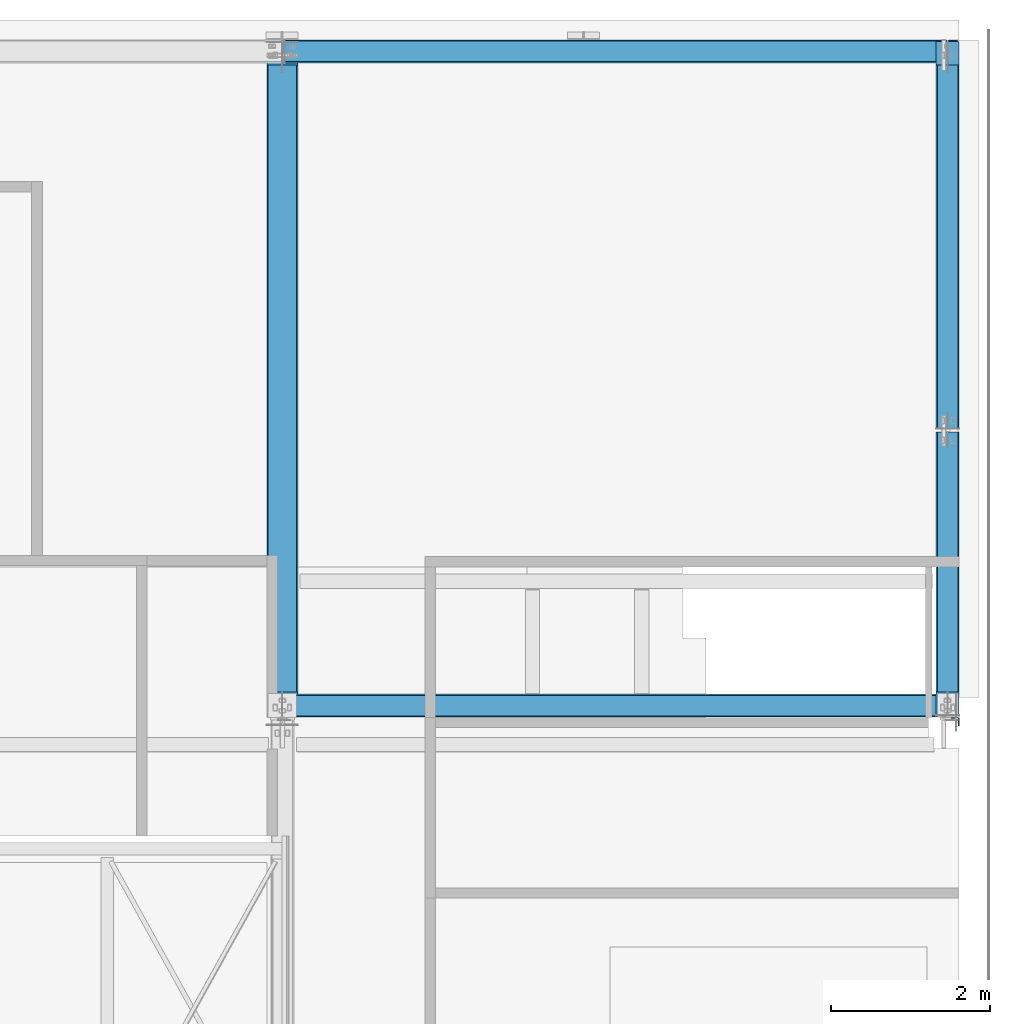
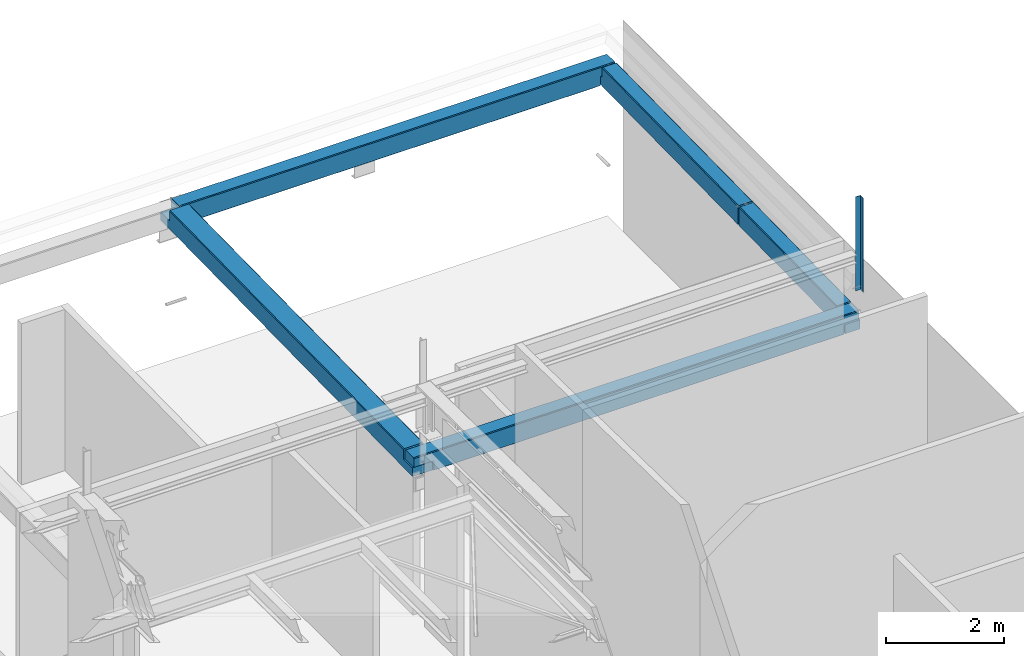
# One storey, part 133 of 186: 6 beams.
"""IFC4X3_ADD2 building model written with IfcOpenShell, lengths in millimetres."""

from ifc_helpers import new_model, si_unit, direction, frame, origin_with_axes, place, context, subcontext, project, spatial, polygons, element, save


model = new_model("IFC4X3_ADD2")

# Units and contexts
model_context = context("Model", 3, precision=1e-05, world=origin_with_axes(), true_north=direction((0.0, 1.0)))
body_context = subcontext(model_context, "Body", "Model", "MODEL_VIEW")
ifc_project = project(units=[si_unit("LENGTHUNIT", "METRE", prefix="MILLI"), si_unit("AREAUNIT", "SQUARE_METRE"), si_unit("VOLUMEUNIT", "CUBIC_METRE"), si_unit("PLANEANGLEUNIT", "RADIAN"), si_unit("TIMEUNIT", "SECOND"), si_unit("MASSUNIT", "GRAM")], contexts=[model_context])

# Site, building, storey
site_placement = place(None, origin_with_axes())
site = spatial("IfcSite", under=ifc_project, at=site_placement, Name="Site", CompositionType="ELEMENT")
building_placement = place(site_placement, origin_with_axes())
building = spatial("IfcBuilding", under=site, at=building_placement, Name="IFC Building Story")
storey_placement = place(building_placement, frame((0.0, 0.0, 4370.0), z_axis=(0.0, 0.0, 1.0), x_axis=(1.0, 0.0, 0.0)))
storey = spatial("IfcBuildingStorey", under=building, at=storey_placement, Name="ETAGE 10 (1)", Elevation=4370.0)

# Beams
beam_1_placement = place(storey_placement, frame((0.0, 0.0, -4370.0), z_axis=(0.0, 0.0, 1.0), x_axis=(1.0, 0.0, 0.0)))
element("IfcBeam", 1, at=beam_1_placement, inside=storey, Name="BEAM", ObjectType="CRH_R_400*290*15", context=body_context, shape_type="Tessellation", body=[
    polygons([(48191.18969887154, 18294.9993896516, 7214.99958190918), (48191.18969887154, 18294.9993896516, 7404.99958190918), (48191.18969887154, 18004.9993896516, 7404.99958190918), (48191.18969887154, 18004.9993896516, 7214.99958190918), (48191.18969887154, 18019.9993896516, 7199.99958190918), (48191.18969887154, 18279.99938965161, 7199.99958190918), (48481.18969887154, 18294.9993896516, 7404.99958190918), (48481.18969887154, 18004.9993896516, 7404.99958190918), (39791.1887833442, 18004.9993896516, 7584.99958190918), (48481.18969887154, 18004.9993896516, 7584.99958190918), (48481.18969887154, 18019.9993896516, 7599.99958190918), (39791.1887833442, 18019.9993896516, 7599.99958190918), (48481.18969887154, 18279.99938965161, 7599.99958190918), (39791.1887833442, 18279.99938965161, 7599.99958190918), (40181.1887833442, 18294.9993896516, 7404.99958190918), (40181.1887833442, 18294.9993896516, 7214.99958190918), (40181.1887833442, 18279.99938965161, 7199.99958190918), (40181.1887833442, 18019.9993896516, 7199.99958190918), (40181.1887833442, 18004.9993896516, 7214.99958190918), (40181.1887833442, 18004.9993896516, 7404.99958190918), (39791.1887833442, 18294.9993896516, 7404.99958190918), (39791.1887833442, 18004.9993896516, 7404.99958190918), (39791.1887833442, 18294.9993896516, 7584.999581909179), (48481.18969887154, 18294.9993896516, 7584.99958190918)], [[[1, 2, 3]], [[1, 3, 4]], [[1, 4, 5]], [[1, 5, 6]], [[2, 7, 8, 3]], [[9, 10, 11, 12]], [[12, 11, 13, 14]], [[15, 16, 17]], [[15, 17, 18]], [[15, 18, 19]], [[15, 19, 20]], [[21, 15, 20, 22]], [[22, 9, 12]], [[22, 12, 14]], [[22, 14, 23]], [[22, 23, 21]], [[14, 13, 24, 23]], [[15, 21, 23]], [[15, 23, 2]], [[2, 1, 16]], [[2, 16, 15]], [[23, 24, 2]], [[24, 7, 2]], [[6, 17, 16, 1]], [[5, 18, 17, 6]], [[4, 19, 18, 5]], [[3, 8, 10]], [[3, 10, 20]], [[20, 19, 4]], [[20, 4, 3]], [[10, 9, 20]], [[9, 22, 20]], [[7, 24, 13]], [[7, 13, 11]], [[7, 11, 10]], [[7, 10, 8]]]),
])
beam_2_placement = place(storey_placement, frame((0.0, 0.0, -4370.0), z_axis=(0.0, 0.0, 1.0), x_axis=(1.0, 0.0, 0.0)))
element("IfcBeam", 2, at=beam_2_placement, inside=storey, Name="BEAM", ObjectType="CRH_R_400*290*15", context=body_context, shape_type="Tessellation", body=[
    polygons([(48491.18869887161, 26229.99974906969, 7720.39048962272), (48506.1886988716, 26229.99974906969, 7705.388681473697), (48506.1886988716, 26229.99974906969, 7514.388718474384), (48216.1886988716, 26229.99974906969, 7514.388718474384), (48216.1886988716, 26229.99974906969, 7705.388681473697), (48231.18869887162, 26229.99974906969, 7720.39048962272), (48506.1886988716, 26529.99974906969, 7514.388718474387), (48216.1886988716, 26529.99974906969, 7514.388718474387), (48499.29467671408, 21639.9893339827, 7257.17816412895), (48506.1886988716, 21639.9893339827, 7264.073017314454), (48506.1886988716, 21639.9893339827, 7634.117618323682), (48491.18869887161, 21639.9893339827, 7649.119426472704), (48231.18869887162, 21639.9893339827, 7649.119426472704), (48216.1886988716, 21639.9893339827, 7634.117618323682), (48216.1886988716, 21639.9893339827, 7264.073017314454), (48223.08272102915, 21639.9893339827, 7257.17816412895), (48496.18956511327, 21839.9893339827, 7257.178164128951), (48226.18783262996, 21839.9893339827, 7257.178164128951), (48491.18869887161, 21839.9893339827, 7252.176695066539), (48231.18869887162, 21839.9893339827, 7252.176695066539), (48491.18869887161, 26139.99974906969, 7318.944803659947), (48231.18869887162, 26139.99974906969, 7318.944803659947), (48502.24301881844, 26139.99974906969, 7330.00045613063), (48220.13437892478, 26139.99974906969, 7330.00045613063), (48216.1886988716, 26529.99974906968, 7340.00230931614), (48226.18934654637, 26529.9997490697, 7330.000456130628), (48496.18805119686, 26529.9997490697, 7330.000456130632), (48506.1886988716, 26529.99974906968, 7340.002309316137)], [[[1, 2, 3]], [[1, 3, 4]], [[1, 4, 5]], [[1, 5, 6]], [[3, 7, 8, 4]], [[9, 10, 11]], [[9, 11, 12]], [[9, 12, 13]], [[9, 13, 14]], [[9, 14, 15]], [[9, 15, 16]], [[17, 9, 16, 18]], [[19, 17, 18, 20]], [[21, 19, 20, 22]], [[23, 21, 22, 24]], [[18, 16, 15]], [[18, 15, 24]], [[24, 22, 18]], [[22, 20, 18]], [[15, 25, 24]], [[25, 26, 24]], [[27, 23, 24, 26]], [[17, 19, 21]], [[23, 27, 28]], [[23, 28, 17]], [[17, 21, 23]], [[28, 10, 17]], [[10, 9, 17]], [[3, 2, 11]], [[3, 11, 10]], [[10, 28, 3]], [[28, 7, 3]], [[1, 12, 11, 2]], [[6, 13, 12, 1]], [[5, 14, 13, 6]], [[4, 8, 25]], [[4, 25, 15]], [[15, 14, 5]], [[15, 5, 4]], [[7, 28, 27]], [[7, 27, 26]], [[7, 26, 25]], [[7, 25, 8]]]),
])
beam_3_placement = place(storey_placement, frame((0.0, 0.0, -4370.0), z_axis=(0.0, 0.0, 1.0), x_axis=(1.0, 0.0, 0.0)))
element("IfcBeam", 3, at=beam_3_placement, inside=storey, Name="BEAM", ObjectType="CRH_R_400*290*15", context=body_context, shape_type="Tessellation", body=[
    polygons([(48506.1886988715, 18019.9995661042, 7394.838574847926), (48506.1886988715, 18319.9995661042, 7394.838574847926), (48216.1886988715, 18319.9995661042, 7394.838574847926), (48216.1886988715, 18019.9995661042, 7394.838574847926), (48506.1886988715, 18319.9995661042, 7582.498580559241), (48491.18869887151, 18319.9995661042, 7597.500391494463), (48231.18869887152, 18319.9995661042, 7597.500391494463), (48216.1886988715, 18319.9995661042, 7582.498580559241), (48500.2955064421, 21399.99942426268, 7254.421322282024), (48491.18869887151, 21399.99942426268, 7245.313415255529), (48231.18869887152, 21399.99942426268, 7245.313415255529), (48222.08189130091, 21399.99942426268, 7254.421322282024), (48496.18630813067, 18319.9995661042, 7202.450312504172), (48500.84756202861, 18019.9995661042, 7202.450312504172), (48221.52983571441, 18019.9995661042, 7202.450312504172), (48226.19108961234, 18319.9995661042, 7202.450312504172), (48491.18869887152, 18319.9995661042, 7197.45209988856), (48497.18800384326, 21599.99942427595, 7254.421322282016), (48506.1886988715, 21599.99942427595, 7263.423103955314), (48506.1886988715, 18019.9995661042, 7207.792094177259), (48231.18869887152, 18319.9995661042, 7197.45209988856), (48216.1886988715, 18019.9995661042, 7207.79209417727), (48216.1886988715, 21599.99942427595, 7263.423103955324), (48225.18939389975, 21599.99942427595, 7254.421322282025), (48216.1886988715, 21599.99942427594, 7633.467773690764), (48231.18869887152, 21599.99942427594, 7648.469584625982), (48491.18869887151, 21599.99942427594, 7648.469584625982), (48506.1886988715, 21599.99942427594, 7633.467773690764)], [[[1, 2, 3, 4]], [[2, 5, 6]], [[2, 6, 7]], [[2, 7, 8]], [[2, 8, 3]], [[9, 10, 11, 12]], [[13, 14, 15, 16]], [[13, 17, 10]], [[9, 18, 19]], [[9, 19, 13]], [[13, 10, 9]], [[19, 20, 13]], [[20, 14, 13]], [[21, 11, 10, 17]], [[17, 13, 16, 21]], [[16, 15, 22]], [[16, 22, 12]], [[12, 11, 16]], [[22, 23, 12]], [[23, 24, 12]], [[11, 21, 16]], [[18, 9, 12, 24]], [[24, 23, 25]], [[24, 25, 26]], [[24, 26, 27]], [[24, 27, 28]], [[24, 28, 19]], [[24, 19, 18]], [[2, 1, 20]], [[2, 20, 19]], [[19, 28, 5]], [[19, 5, 2]], [[4, 22, 15]], [[4, 15, 14]], [[4, 14, 20]], [[4, 20, 1]], [[3, 8, 25]], [[3, 25, 23]], [[23, 22, 3]], [[22, 4, 3]], [[7, 26, 25, 8]], [[6, 27, 26, 7]], [[5, 28, 27, 6]]]),
])
beam_4_placement = place(storey_placement, frame((0.0, 0.0, -4370.0), z_axis=(0.0, 0.0, 1.0), x_axis=(1.0, 0.0, 0.0)))
element("IfcBeam", 4, at=beam_4_placement, inside=storey, Name="BEAM", ObjectType="CRH_R_400*290*15", context=body_context, shape_type="Tessellation", body=[
    polygons([(48097.18922475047, 26534.9996948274, 7319.52909633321), (48097.18922475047, 26544.9996948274, 7329.52909633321), (48097.18922475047, 26264.99969482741, 7329.52909633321), (48097.18922475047, 26274.99969482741, 7319.52909633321), (48196.18922475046, 26544.9996948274, 7329.52909633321), (48196.18922475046, 26264.99969482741, 7329.52909633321), (48486.18922475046, 26534.9996948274, 7719.52909633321), (39986.1887833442, 26534.9996948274, 7719.52909633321), (39986.1887833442, 26274.99969482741, 7719.52909633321), (48486.18922475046, 26274.99969482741, 7719.52909633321), (39986.1887833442, 26259.9996948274, 7704.52909633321), (48486.18922475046, 26259.9996948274, 7704.52909633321), (40186.1887833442, 26549.9996948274, 7524.529096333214), (40186.1887833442, 26549.9996948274, 7334.529096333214), (40186.1887833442, 26534.9996948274, 7319.52909633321), (40186.1887833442, 26274.99969482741, 7319.52909633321), (40186.1887833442, 26259.9996948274, 7334.529096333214), (40186.1887833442, 26259.9996948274, 7524.529096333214), (48196.18922475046, 26259.9996948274, 7334.529096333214), (48196.18922475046, 26259.9996948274, 7524.529096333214), (48486.18922475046, 26259.9996948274, 7524.529096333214), (39986.1887833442, 26259.9996948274, 7524.529096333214), (48196.18922475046, 26549.9996948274, 7524.529096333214), (48486.18922475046, 26549.9996948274, 7524.529096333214), (48486.18922475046, 26549.9996948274, 7704.529096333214), (39986.1887833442, 26549.9996948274, 7704.529096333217), (39986.1887833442, 26549.9996948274, 7524.529096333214), (48196.18922475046, 26549.9996948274, 7334.529096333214)], [[[1, 2, 3, 4]], [[2, 5, 6, 3]], [[7, 8, 9, 10]], [[10, 9, 11, 12]], [[13, 14, 15]], [[13, 15, 16]], [[13, 16, 17]], [[13, 17, 18]], [[20, 21, 12]], [[20, 12, 18]], [[18, 17, 19]], [[18, 19, 20]], [[12, 11, 18]], [[11, 22, 18]], [[23, 24, 21, 20]], [[24, 25, 7]], [[24, 7, 10]], [[24, 10, 12]], [[24, 12, 21]], [[25, 26, 8, 7]], [[22, 11, 9]], [[22, 9, 8]], [[22, 8, 26]], [[22, 26, 27]], [[27, 13, 18, 22]], [[13, 27, 26]], [[13, 26, 23]], [[23, 28, 14]], [[23, 14, 13]], [[26, 25, 23]], [[25, 24, 23]], [[2, 1, 15]], [[2, 15, 14]], [[14, 28, 2]], [[28, 5, 2]], [[4, 16, 15, 1]], [[3, 6, 19]], [[3, 19, 17]], [[17, 16, 4]], [[17, 4, 3]], [[5, 28, 23]], [[5, 23, 20]], [[5, 20, 19]], [[5, 19, 6]]]),
])
beam_5_placement = place(storey_placement, frame((0.0, 0.0, -4370.0), z_axis=(0.0, 0.0, 1.0), x_axis=(1.0, 0.0, 0.0)))
element("IfcBeam", 5, at=beam_5_placement, inside=storey, Name="BEAM", ObjectType="CRH_R_400*390*15", context=body_context, shape_type="Tessellation", body=[
    polygons([(40161.1890204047, 18019.9995662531, 7394.999577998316), (40161.1890204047, 18319.9995662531, 7394.999577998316), (39771.1890204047, 18319.9995662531, 7394.999577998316), (39771.1890204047, 18019.9995662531, 7394.999577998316), (40161.1890204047, 18319.9995662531, 7589.657200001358), (40146.1890204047, 18319.9995662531, 7604.659009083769), (39786.18902040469, 18319.9995662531, 7604.659009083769), (39771.1890204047, 18319.9995662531, 7589.657200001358), (40157.24492726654, 26139.99753131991, 7337.123812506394), (40146.1890204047, 26139.99753131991, 7326.06657224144), (39786.18902040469, 26139.99753131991, 7326.06657224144), (39775.13311354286, 26139.99753131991, 7337.123812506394), (40151.18839730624, 26529.99753131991, 7337.12381250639), (39781.18964350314, 26529.99753131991, 7337.12381250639), (40152.18884556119, 18319.9995662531, 7210.611315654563), (40156.84771476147, 18019.9995662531, 7210.611315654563), (39775.53032604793, 18019.9995662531, 7210.611315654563), (39780.18919524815, 18319.9995662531, 7210.611315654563), (40146.1890204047, 18319.9995662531, 7204.61076688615), (40161.1890204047, 26529.99753131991, 7347.125641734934), (40161.1890204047, 18019.9995662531, 7214.953144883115), (39786.18902040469, 18319.9995662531, 7204.61076688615), (39771.1890204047, 18019.9995662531, 7214.953144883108), (39771.1890204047, 26529.99753131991, 7347.125641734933), (40161.1890204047, 26529.99753131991, 7514.512074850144), (39771.1890204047, 26529.99753131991, 7514.512074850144), (40161.1890204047, 26229.99753131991, 7514.512074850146), (39771.1890204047, 26229.99753131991, 7514.512074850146), (40146.1890204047, 26229.99753131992, 7727.512643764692), (40161.1890204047, 26229.99753131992, 7712.510834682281), (39771.1890204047, 26229.99753131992, 7712.510834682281), (39786.18902040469, 26229.99753131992, 7727.512643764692)], [[[1, 2, 3, 4]], [[2, 5, 6]], [[2, 6, 7]], [[2, 7, 8]], [[2, 8, 3]], [[9, 10, 11, 12]], [[13, 9, 12, 14]], [[15, 16, 17, 18]], [[15, 19, 10]], [[9, 13, 20]], [[9, 20, 15]], [[15, 10, 9]], [[20, 21, 15]], [[21, 16, 15]], [[22, 11, 10, 19]], [[19, 15, 18, 22]], [[18, 17, 23]], [[18, 23, 12]], [[12, 11, 18]], [[11, 22, 18]], [[23, 24, 12]], [[24, 14, 12]], [[25, 20, 13]], [[25, 13, 14]], [[25, 14, 24]], [[25, 24, 26]], [[27, 25, 26, 28]], [[29, 30, 27]], [[29, 27, 28]], [[29, 28, 31]], [[29, 31, 32]], [[2, 1, 21]], [[2, 21, 27]], [[27, 30, 5]], [[27, 5, 2]], [[21, 20, 27]], [[20, 25, 27]], [[4, 23, 17]], [[4, 17, 16]], [[4, 16, 21]], [[4, 21, 1]], [[28, 26, 24]], [[28, 24, 3]], [[3, 8, 31]], [[3, 31, 28]], [[24, 23, 3]], [[23, 4, 3]], [[7, 32, 31, 8]], [[6, 29, 32, 7]], [[5, 30, 29, 6]]]),
])
beam_6_placement = place(storey_placement, frame((0.0, 0.0, -4370.0), z_axis=(0.0, 0.0, 1.0), x_axis=(1.0, 0.0, 0.0)))
element("IfcBeam", 6, at=beam_6_placement, inside=storey, Name="PS3", ObjectType="L100/100/10", context=body_context, shape_type="Tessellation", body=[
    polygons([(48504.1886362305, 17997.9996109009, 9980.0), (48504.1886362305, 17997.9996109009, 8040.0), (48404.1886362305, 17997.9996109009, 8040.0), (48404.1886362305, 17997.9996109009, 9980.0), (48404.1886362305, 17987.9996109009, 8040.0), (48404.1886362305, 17987.9996109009, 9980.0), (48494.1886362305, 17987.9996109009, 8040.0), (48494.1886362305, 17987.9996109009, 9980.0), (48494.1886362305, 17897.9996109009, 8040.0), (48494.1886362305, 17897.9996109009, 9980.0), (48504.1886362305, 17897.9996109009, 8040.0), (48504.1886362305, 17897.9996109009, 9980.0)], [[[1, 2, 3, 4]], [[4, 3, 5, 6]], [[6, 5, 7, 8]], [[8, 7, 9, 10]], [[10, 9, 11, 12]], [[12, 11, 2, 1]], [[8, 10, 12]], [[8, 12, 1]], [[1, 4, 6]], [[1, 6, 8]], [[7, 5, 3]], [[7, 3, 2]], [[2, 11, 9]], [[2, 9, 7]]]),
])

save(model, "model.ifc")
